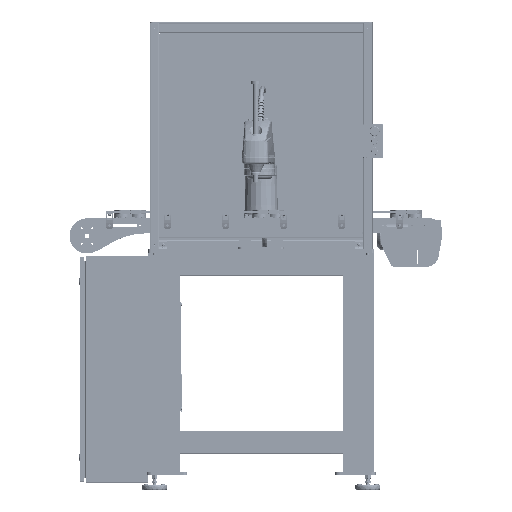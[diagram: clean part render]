
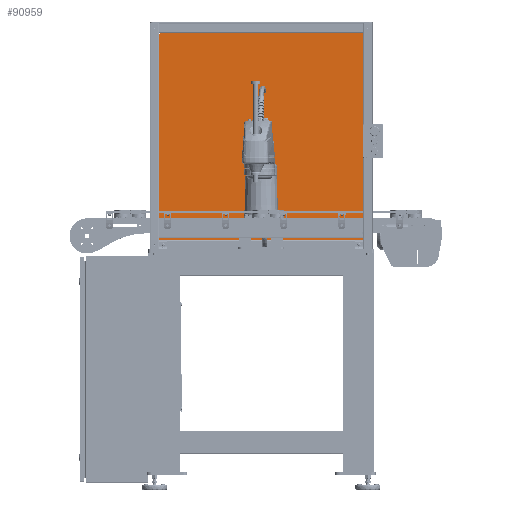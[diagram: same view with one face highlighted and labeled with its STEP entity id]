
A CAD part, top view. The second image highlights one B-rep face of the part: STEP entity #90959.
In plain terms, the highlighted planar face has unit normal (0, 0, 1).
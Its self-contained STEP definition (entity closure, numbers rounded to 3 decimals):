
#5597 = CARTESIAN_POINT ( 'NONE',  ( 16.295, 1.015, -6.84 ) ) ;
#12167 = DIRECTION ( 'NONE',  ( 1., 0., 0. ) ) ;
#16676 = CARTESIAN_POINT ( 'NONE',  ( -16.2, 1.33, -6.84 ) ) ;
#16731 = VECTOR ( 'NONE', #397473, 39.37 ) ;
#19042 = LINE ( 'NONE', #211997, #312897 ) ;
#25120 = CARTESIAN_POINT ( 'NONE',  ( -16.515, 34.765, -6.84 ) ) ;
#26893 = LINE ( 'NONE', #273649, #376941 ) ;
#34334 = ORIENTED_EDGE ( 'NONE', *, *, #501669, .F. ) ;
#34486 = LINE ( 'NONE', #25120, #551202 ) ;
#41831 = ORIENTED_EDGE ( 'NONE', *, *, #332665, .F. ) ;
#44039 = AXIS2_PLACEMENT_3D ( 'NONE', #265300, #407804, #315943 ) ;
#45832 = VERTEX_POINT ( 'NONE', #526089 ) ;
#47388 = VECTOR ( 'NONE', #234072, 39.37 ) ;
#49887 = ORIENTED_EDGE ( 'NONE', *, *, #435611, .T. ) ;
#50129 = EDGE_CURVE ( 'NONE', #86395, #393989, #624868, .T. ) ;
#55008 = ORIENTED_EDGE ( 'NONE', *, *, #574978, .T. ) ;
#71816 = DIRECTION ( 'NONE',  ( 0., 0., -1. ) ) ;
#78171 = CARTESIAN_POINT ( 'NONE',  ( -16.2, 1.455, -6.84 ) ) ;
#81683 = ORIENTED_EDGE ( 'NONE', *, *, #50129, .F. ) ;
#84221 = CIRCLE ( 'NONE', #306528, 0.125 ) ;
#86395 = VERTEX_POINT ( 'NONE', #212672 ) ;
#88512 = LINE ( 'NONE', #142176, #47388 ) ;
#90959 = ADVANCED_FACE ( 'NONE', ( #324066 ), #472794, .T. ) ;
#91287 = AXIS2_PLACEMENT_3D ( 'NONE', #16676, #159012, #405983 ) ;
#97479 = CARTESIAN_POINT ( 'NONE',  ( -16.515, 34.325, -6.84 ) ) ;
#100876 = CARTESIAN_POINT ( 'NONE',  ( -16.2, 34.45, -6.84 ) ) ;
#108690 = VERTEX_POINT ( 'NONE', #5597 ) ;
#117394 = CARTESIAN_POINT ( 'NONE',  ( -16.075, 1.33, -6.84 ) ) ;
#122391 = DIRECTION ( 'NONE',  ( 1., 0., 0. ) ) ;
#123543 = ORIENTED_EDGE ( 'NONE', *, *, #592942, .F. ) ;
#124947 = VERTEX_POINT ( 'NONE', #135071 ) ;
#131640 = EDGE_CURVE ( 'NONE', #617020, #501456, #510840, .T. ) ;
#135071 = CARTESIAN_POINT ( 'NONE',  ( -16.515, 1.455, -6.84 ) ) ;
#141778 = LINE ( 'NONE', #325645, #619396 ) ;
#142176 = CARTESIAN_POINT ( 'NONE',  ( -16.075, 34.765, -6.84 ) ) ;
#143321 = DIRECTION ( 'NONE',  ( -1., 0., 0. ) ) ;
#143648 = DIRECTION ( 'NONE',  ( 0., -1., 0. ) ) ;
#147420 = LINE ( 'NONE', #492424, #16731 ) ;
#159012 = DIRECTION ( 'NONE',  ( 0., 0., -1. ) ) ;
#160199 = ORIENTED_EDGE ( 'NONE', *, *, #489930, .F. ) ;
#183765 = CARTESIAN_POINT ( 'NONE',  ( -16.515, 1.455, -6.84 ) ) ;
#198650 = LINE ( 'NONE', #578750, #392036 ) ;
#211997 = CARTESIAN_POINT ( 'NONE',  ( -16.515, 34.765, -6.84 ) ) ;
#212672 = CARTESIAN_POINT ( 'NONE',  ( 16.295, 34.765, -6.84 ) ) ;
#215120 = DIRECTION ( 'NONE',  ( 1., 0., 0. ) ) ;
#226702 = CARTESIAN_POINT ( 'NONE',  ( 16.42, 34.45, -6.84 ) ) ;
#233210 = EDGE_CURVE ( 'NONE', #124947, #617020, #34486, .T. ) ;
#234072 = DIRECTION ( 'NONE',  ( 0., -1., 0. ) ) ;
#248089 = CARTESIAN_POINT ( 'NONE',  ( -16.515, 1.015, -6.84 ) ) ;
#249837 = CARTESIAN_POINT ( 'NONE',  ( -16.075, 1.015, -6.84 ) ) ;
#252874 = CARTESIAN_POINT ( 'NONE',  ( 16.295, 1.33, -6.84 ) ) ;
#258342 = ORIENTED_EDGE ( 'NONE', *, *, #620477, .T. ) ;
#264462 = VERTEX_POINT ( 'NONE', #530616 ) ;
#265300 = CARTESIAN_POINT ( 'NONE',  ( 16.42, 1.33, -6.84 ) ) ;
#273649 = CARTESIAN_POINT ( 'NONE',  ( 16.295, 34.765, -6.84 ) ) ;
#278092 = DIRECTION ( 'NONE',  ( -1., 0., 0. ) ) ;
#297528 = ORIENTED_EDGE ( 'NONE', *, *, #233210, .F. ) ;
#301606 = VECTOR ( 'NONE', #475099, 39.37 ) ;
#306528 = AXIS2_PLACEMENT_3D ( 'NONE', #100876, #591418, #12167 ) ;
#312897 = VECTOR ( 'NONE', #215120, 39.37 ) ;
#315099 = VECTOR ( 'NONE', #143648, 39.37 ) ;
#315943 = DIRECTION ( 'NONE',  ( 1., 0., 0. ) ) ;
#320024 = EDGE_CURVE ( 'NONE', #108690, #468960, #539367, .T. ) ;
#324066 = FACE_OUTER_BOUND ( 'NONE', #583572, .T. ) ;
#325645 = CARTESIAN_POINT ( 'NONE',  ( -16.515, 34.325, -6.84 ) ) ;
#332665 = EDGE_CURVE ( 'NONE', #264462, #403059, #514147, .T. ) ;
#341983 = ORIENTED_EDGE ( 'NONE', *, *, #396292, .T. ) ;
#346253 = DIRECTION ( 'NONE',  ( -1., 0., 0. ) ) ;
#346504 = ORIENTED_EDGE ( 'NONE', *, *, #582166, .F. ) ;
#362389 = VERTEX_POINT ( 'NONE', #499490 ) ;
#362769 = CARTESIAN_POINT ( 'NONE',  ( 16.735, 1.455, -6.84 ) ) ;
#375594 = VERTEX_POINT ( 'NONE', #78171 ) ;
#376941 = VECTOR ( 'NONE', #416188, 39.37 ) ;
#391894 = DIRECTION ( 'NONE',  ( 0., 1., 0. ) ) ;
#392036 = VECTOR ( 'NONE', #391894, 39.37 ) ;
#393989 = VERTEX_POINT ( 'NONE', #611084 ) ;
#396292 = EDGE_CURVE ( 'NONE', #124947, #375594, #147420, .T. ) ;
#397473 = DIRECTION ( 'NONE',  ( 1., 0., 0. ) ) ;
#403059 = VERTEX_POINT ( 'NONE', #362769 ) ;
#405983 = DIRECTION ( 'NONE',  ( 1., 0., 0. ) ) ;
#406504 = DIRECTION ( 'NONE',  ( 1., 0., 0. ) ) ;
#407804 = DIRECTION ( 'NONE',  ( 0., 0., 1. ) ) ;
#414863 = ORIENTED_EDGE ( 'NONE', *, *, #320024, .F. ) ;
#416188 = DIRECTION ( 'NONE',  ( 0., 1., 0. ) ) ;
#422287 = CARTESIAN_POINT ( 'NONE',  ( 16.735, 34.765, -6.84 ) ) ;
#427360 = VECTOR ( 'NONE', #406504, 39.37 ) ;
#435611 = EDGE_CURVE ( 'NONE', #264462, #362389, #141778, .T. ) ;
#453978 = CARTESIAN_POINT ( 'NONE',  ( -16.515, 34.325, -6.84 ) ) ;
#454846 = ORIENTED_EDGE ( 'NONE', *, *, #588599, .T. ) ;
#458797 = DIRECTION ( 'NONE',  ( 0., 1., 0. ) ) ;
#458889 = EDGE_CURVE ( 'NONE', #375594, #564906, #606957, .T. ) ;
#460066 = CIRCLE ( 'NONE', #540966, 0.125 ) ;
#467718 = VERTEX_POINT ( 'NONE', #252874 ) ;
#468960 = VERTEX_POINT ( 'NONE', #249837 ) ;
#471544 = CARTESIAN_POINT ( 'NONE',  ( -16.2, 34.325, -6.84 ) ) ;
#472101 = VECTOR ( 'NONE', #606023, 39.37 ) ;
#472794 = PLANE ( 'NONE',  #543187 ) ;
#472821 = ORIENTED_EDGE ( 'NONE', *, *, #131640, .F. ) ;
#475099 = DIRECTION ( 'NONE',  ( -1., 0., 0. ) ) ;
#485233 = CARTESIAN_POINT ( 'NONE',  ( -16.075, 34.45, -6.84 ) ) ;
#489917 = VERTEX_POINT ( 'NONE', #512137 ) ;
#489930 = EDGE_CURVE ( 'NONE', #489917, #467718, #589928, .T. ) ;
#492424 = CARTESIAN_POINT ( 'NONE',  ( -16.515, 1.455, -6.84 ) ) ;
#499490 = CARTESIAN_POINT ( 'NONE',  ( 16.42, 34.325, -6.84 ) ) ;
#501456 = VERTEX_POINT ( 'NONE', #471544 ) ;
#501669 = EDGE_CURVE ( 'NONE', #501456, #574492, #84221, .T. ) ;
#510840 = LINE ( 'NONE', #453978, #427360 ) ;
#512137 = CARTESIAN_POINT ( 'NONE',  ( 16.42, 1.455, -6.84 ) ) ;
#514147 = LINE ( 'NONE', #422287, #472101 ) ;
#526089 = CARTESIAN_POINT ( 'NONE',  ( -16.075, 34.765, -6.84 ) ) ;
#530616 = CARTESIAN_POINT ( 'NONE',  ( 16.735, 34.325, -6.84 ) ) ;
#539367 = LINE ( 'NONE', #248089, #566537 ) ;
#540966 = AXIS2_PLACEMENT_3D ( 'NONE', #226702, #71816, #122391 ) ;
#542396 = ORIENTED_EDGE ( 'NONE', *, *, #458889, .T. ) ;
#543187 = AXIS2_PLACEMENT_3D ( 'NONE', #577078, #567774, #143321 ) ;
#543632 = ORIENTED_EDGE ( 'NONE', *, *, #578911, .F. ) ;
#551202 = VECTOR ( 'NONE', #458797, 39.37 ) ;
#564906 = VERTEX_POINT ( 'NONE', #117394 ) ;
#566537 = VECTOR ( 'NONE', #346253, 39.37 ) ;
#567774 = DIRECTION ( 'NONE',  ( 0., 0., 1. ) ) ;
#574492 = VERTEX_POINT ( 'NONE', #485233 ) ;
#574978 = EDGE_CURVE ( 'NONE', #362389, #393989, #460066, .T. ) ;
#577078 = CARTESIAN_POINT ( 'NONE',  ( -16.515, 1.015, -6.84 ) ) ;
#577407 = CARTESIAN_POINT ( 'NONE',  ( 16.295, 34.765, -6.84 ) ) ;
#578750 = CARTESIAN_POINT ( 'NONE',  ( -16.075, 34.765, -6.84 ) ) ;
#578911 = EDGE_CURVE ( 'NONE', #403059, #489917, #617543, .T. ) ;
#582166 = EDGE_CURVE ( 'NONE', #45832, #86395, #19042, .T. ) ;
#583572 = EDGE_LOOP ( 'NONE', ( #341983, #542396, #123543, #414863, #454846, #160199, #543632, #41831, #49887, #55008, #81683, #346504, #258342, #34334, #472821, #297528 ) ) ;
#588599 = EDGE_CURVE ( 'NONE', #108690, #467718, #26893, .T. ) ;
#589928 = CIRCLE ( 'NONE', #44039, 0.125 ) ;
#591418 = DIRECTION ( 'NONE',  ( 0., 0., 1. ) ) ;
#592942 = EDGE_CURVE ( 'NONE', #468960, #564906, #198650, .T. ) ;
#606023 = DIRECTION ( 'NONE',  ( 0., -1., 0. ) ) ;
#606957 = CIRCLE ( 'NONE', #91287, 0.125 ) ;
#611084 = CARTESIAN_POINT ( 'NONE',  ( 16.295, 34.45, -6.84 ) ) ;
#617020 = VERTEX_POINT ( 'NONE', #97479 ) ;
#617543 = LINE ( 'NONE', #183765, #301606 ) ;
#619396 = VECTOR ( 'NONE', #278092, 39.37 ) ;
#620477 = EDGE_CURVE ( 'NONE', #45832, #574492, #88512, .T. ) ;
#624868 = LINE ( 'NONE', #577407, #315099 ) ;
